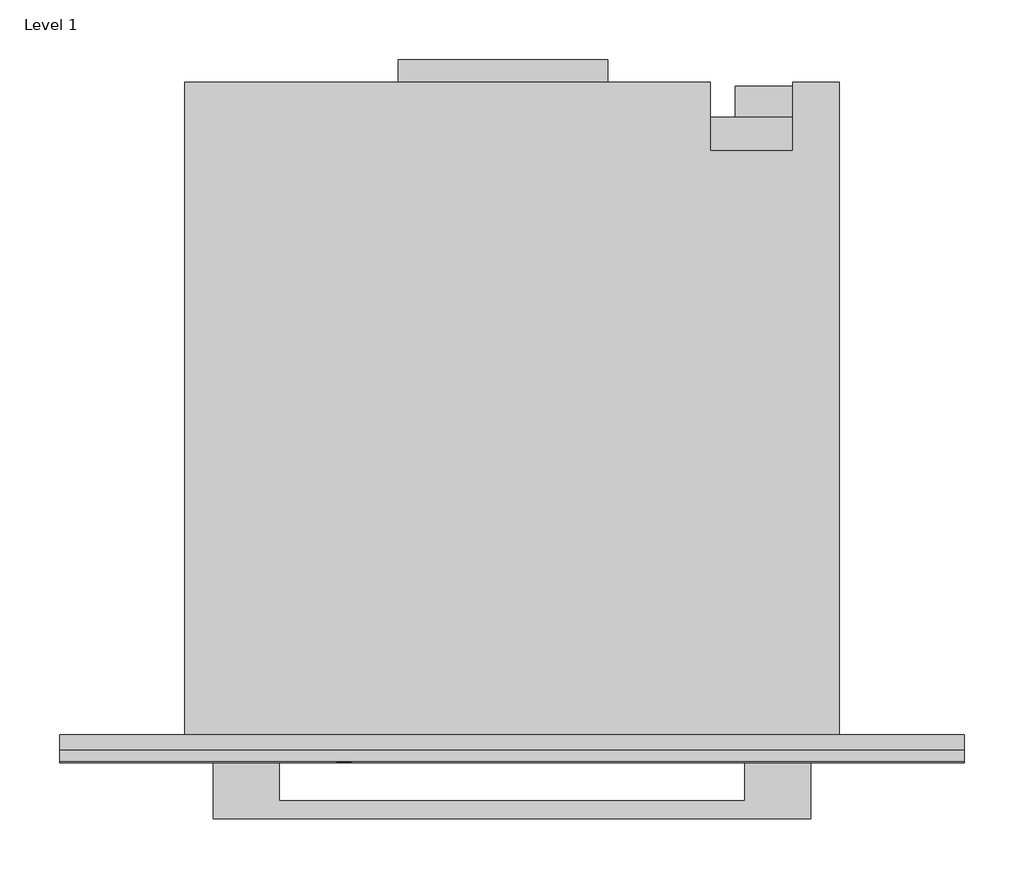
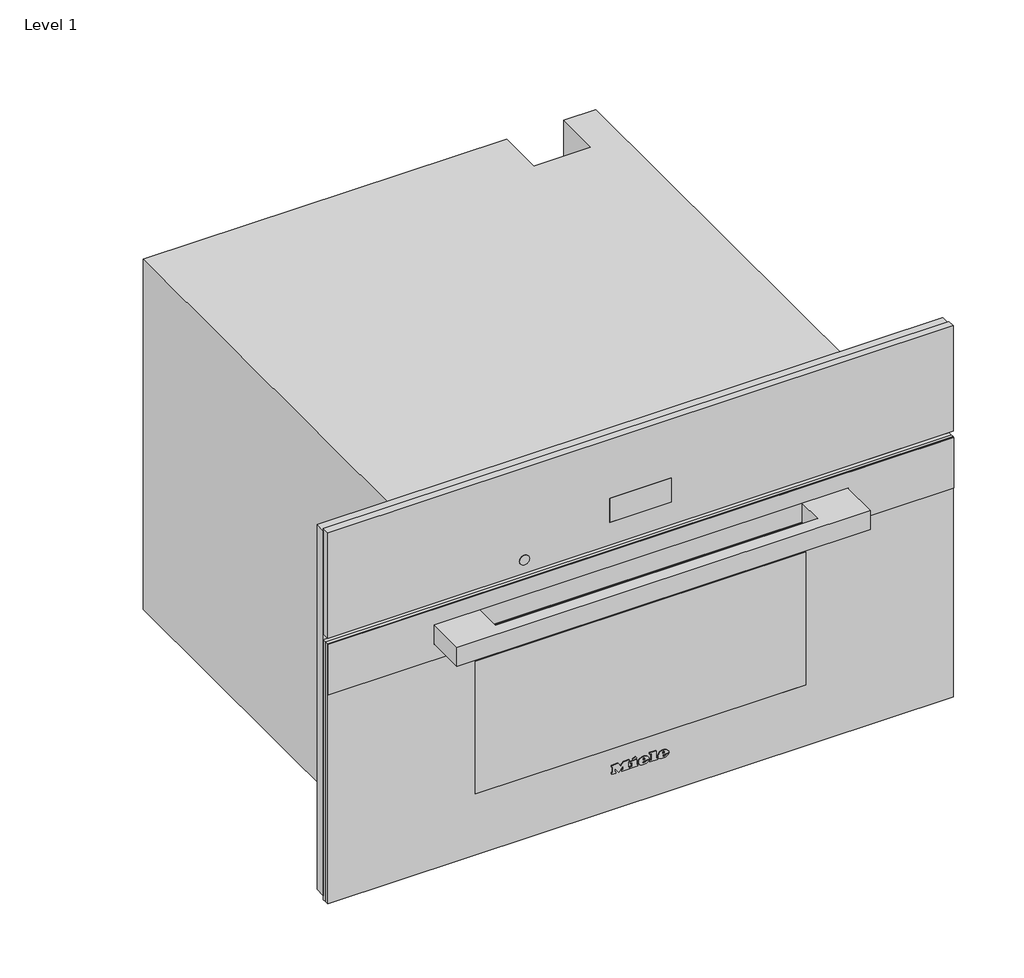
# One storey: 1 proxy.
"""IFC4 building model written with IfcOpenShell, lengths in millimetres."""

import ifcopenshell
import ifcopenshell.guid

model = None  # the IFC model being written
_history = None  # IfcOwnerHistory: only IFC2X3 demands one
_inside = {}  # id of a spatial element -> (the spatial element, [elements in it])
_under = {}  # id of a project, library or spatial element -> (it, [spatial elements below it])
_declared = {}  # id of a project -> (the project, [libraries it declares])
_typed = {}  # id of a type object -> (the type object, [elements of that type])
_made_of = {}  # id of a material, layer set ... -> (it, [elements and type objects made of it])


def new_model(schema):
    """Start an empty IFC model of exactly this schema.

    Asked for "IFC4X3", IfcOpenShell would pick the latest addendum, in which some entities
    have other attributes; the version numbers below select the first issue.
    IFC2X3 requires an IfcOwnerHistory on every rooted entity: one is made here for all.
    """
    global model, _history
    if schema == "IFC4X3":
        model = ifcopenshell.file(schema_version=(4, 3, 0, 0))
    else:
        model = ifcopenshell.file(schema=schema)
    _inside.clear()
    _under.clear()
    _declared.clear()
    _typed.clear()
    _made_of.clear()
    _history = None
    if model.schema == "IFC2X3":
        org = make("IfcOrganization", Name="unknown")
        user = make(
            "IfcPersonAndOrganization",
            ThePerson=make("IfcPerson", FamilyName="unknown"),
            TheOrganization=org,
        )
        app = make(
            "IfcApplication",
            ApplicationDeveloper=org,
            Version="unknown",
            ApplicationFullName="unknown",
            ApplicationIdentifier="unknown",
        )
        _history = make(
            "IfcOwnerHistory",
            OwningUser=user,
            OwningApplication=app,
            ChangeAction="ADDED",
            CreationDate=0,
        )
    return model


def make(cls, **values):
    """One entity of the class cls with the attributes given. An attribute that is None is left unset."""
    return model.create_entity(
        cls, **{name: value for name, value in values.items() if value is not None}
    )


def rooted(cls, **values):
    """An entity with a GlobalId (a new one), such as an element, a storey or a relation."""
    return make(cls, GlobalId=ifcopenshell.guid.new(), OwnerHistory=_history, **values)


def si_unit(unit_type, name, prefix=None):
    """IfcSIUnit, for example si_unit("LENGTHUNIT", "METRE", prefix="MILLI")."""
    return make("IfcSIUnit", UnitType=unit_type, Prefix=prefix, Name=name)


def assignment(units):
    """IfcUnitAssignment: the units of a project."""
    return None if units is None else make("IfcUnitAssignment", Units=units)


def point(xyz):
    """IfcCartesianPoint."""
    return None if xyz is None else make("IfcCartesianPoint", Coordinates=xyz)


def direction(xyz):
    """IfcDirection."""
    return None if xyz is None else make("IfcDirection", DirectionRatios=xyz)


def frame(location, z_axis=None, x_axis=None):
    """IfcAxis2Placement3D, a coordinate frame: its origin and axes. An axis left out is left unset."""
    return make(
        "IfcAxis2Placement3D",
        Location=point(location),
        Axis=direction(z_axis),
        RefDirection=direction(x_axis),
    )


def frame_2d(location, x_axis=None):
    """IfcAxis2Placement2D, a coordinate frame in the plane: its origin and x axis."""
    return make(
        "IfcAxis2Placement2D", Location=point(location), RefDirection=direction(x_axis)
    )


def origin():
    """The frame at (0, 0, 0) with its axes left unset."""
    return frame((0.0, 0.0, 0.0))


def place(relative_to, where):
    """IfcLocalPlacement: puts the frame where relative to a parent placement (None: the world)."""
    return make(
        "IfcLocalPlacement", PlacementRelTo=relative_to, RelativePlacement=where
    )


def context(
    kind, dimensions, precision=None, world=None, true_north=None, identifier=None
):
    """IfcGeometricRepresentationContext, for example the 3D "Model" context."""
    return make(
        "IfcGeometricRepresentationContext",
        ContextIdentifier=identifier,
        ContextType=kind,
        CoordinateSpaceDimension=dimensions,
        Precision=precision,
        WorldCoordinateSystem=world,
        TrueNorth=true_north,
    )


def project(units=None, contexts=None):
    """IfcProject with its units and contexts."""
    return rooted(
        "IfcProject",
        Name="project",
        RepresentationContexts=contexts,
        UnitsInContext=assignment(units),
    )


def spatial(cls, under=None, at=None, **own):
    """A site, building, storey or space (cls), placed at a placement, below another one or the project."""
    s = rooted(cls, ObjectPlacement=at, **own)
    if under is not None:
        _under.setdefault(under.id(), (under, []))[1].append(s)
    return s


def polyline(points):
    """IfcPolyline through the points."""
    return make("IfcPolyline", Points=[point(p) for p in points])


def circle_curve(where, radius):
    """IfcCircle in the frame where."""
    return make("IfcCircle", Position=where, Radius=radius)


def ellipse_curve(where, semi_axis1, semi_axis2):
    """IfcEllipse in the frame where."""
    return make(
        "IfcEllipse", Position=where, SemiAxis1=semi_axis1, SemiAxis2=semi_axis2
    )


def trimmed(basis, trim1, trim2, sense, master):
    """IfcTrimmedCurve: the piece of a basis curve between two trims."""
    return make(
        "IfcTrimmedCurve",
        BasisCurve=basis,
        Trim1=trim1,
        Trim2=trim2,
        SenseAgreement=sense,
        MasterRepresentation=master,
    )


def segment(curve, same_sense, transition):
    """IfcCompositeCurveSegment."""
    return make(
        "IfcCompositeCurveSegment",
        Transition=transition,
        SameSense=same_sense,
        ParentCurve=curve,
    )


def composite_curve(segments, self_intersect=None):
    """IfcCompositeCurve: segments joined end to end."""
    return make("IfcCompositeCurve", Segments=segments, SelfIntersect=self_intersect)


def outline(outer, holes=None, kind="AREA"):
    """IfcArbitraryClosedProfileDef: a profile drawn as a closed curve; with holes, ...WithVoids."""
    if holes is None:
        return make("IfcArbitraryClosedProfileDef", ProfileType=kind, OuterCurve=outer)
    return make(
        "IfcArbitraryProfileDefWithVoids",
        ProfileType=kind,
        OuterCurve=outer,
        InnerCurves=holes,
    )


def extrude(swept, where, along, depth):
    """IfcExtrudedAreaSolid: the profile swept, set in the frame where, extruded along a direction by depth."""
    return make(
        "IfcExtrudedAreaSolid",
        SweptArea=swept,
        Position=where,
        ExtrudedDirection=direction(along),
        Depth=depth,
    )


def faces_of(points, faces, orient=None, outer=None):
    """IfcFace entities. A face is a list of loops; a loop is a list of indices into points, from 0.

    orient and outer hold one flag for each loop. By default every Orientation is true, the
    first loop of a face is its IfcFaceOuterBound and the others are IfcFaceBound.
    """
    made = []
    for i, loops in enumerate(faces):
        bounds = []
        for j, loop in enumerate(loops):
            is_outer = j == 0 if outer is None else outer[i][j]
            bounds.append(
                make(
                    "IfcFaceOuterBound" if is_outer else "IfcFaceBound",
                    Bound=make("IfcPolyLoop", Polygon=[points[k] for k in loop]),
                    Orientation=True if orient is None else orient[i][j],
                )
            )
        made.append(make("IfcFace", Bounds=bounds))
    return made


def faceted_brep(points, faces, orient=None, outer=None, voids=None):
    """IfcFacetedBrep: a solid bounded by flat faces; with voids (closed shells), ...WithVoids."""
    shared = [point(p) for p in points]
    hull = make("IfcClosedShell", CfsFaces=faces_of(shared, faces, orient, outer))
    if voids is None:
        return make("IfcFacetedBrep", Outer=hull)
    return make(
        "IfcFacetedBrepWithVoids",
        Outer=hull,
        Voids=[
            make(cls, CfsFaces=faces_of(shared, fs, o, b)) for cls, fs, o, b in voids
        ],
    )


def shape(context_of_items, identifier, shape_type, items):
    """IfcShapeRepresentation: the items that make up one representation, for example the "Body"."""
    return make(
        "IfcShapeRepresentation",
        ContextOfItems=context_of_items,
        RepresentationIdentifier=identifier,
        RepresentationType=shape_type,
        Items=items,
    )


def source(mapping_origin, context_of_items, identifier, shape_type, items):
    """IfcRepresentationMap: a shape defined once, which mapped items show again and again."""
    return make(
        "IfcRepresentationMap",
        MappingOrigin=mapping_origin,
        MappedRepresentation=shape(context_of_items, identifier, shape_type, items),
    )


def transform(
    local_origin,
    x_axis=None,
    y_axis=None,
    z_axis=None,
    scale=None,
    scale2=None,
    scale3=None,
    uniform=True,
):
    """IfcCartesianTransformationOperator3D, or its non-uniform kind. x_axis, y_axis, z_axis: its Axis1, 2, 3."""
    if uniform:
        return make(
            "IfcCartesianTransformationOperator3D",
            Axis1=direction(x_axis),
            Axis2=direction(y_axis),
            LocalOrigin=point(local_origin),
            Scale=scale,
            Axis3=direction(z_axis),
        )
    return make(
        "IfcCartesianTransformationOperator3DnonUniform",
        Axis1=direction(x_axis),
        Axis2=direction(y_axis),
        LocalOrigin=point(local_origin),
        Scale=scale,
        Axis3=direction(z_axis),
        Scale2=scale2,
        Scale3=scale3,
    )


def mapped(mapping_source, mapping_target):
    """IfcMappedItem: shows the shape of a source again, moved by a transform."""
    return make(
        "IfcMappedItem", MappingSource=mapping_source, MappingTarget=mapping_target
    )


def made_of(thing, what):
    """Note that an element or type object is made of a material, layer set ...; save() writes the relation."""
    if what is not None:
        _made_of.setdefault(what.id(), (what, []))[1].append(thing)
    return thing


def element(
    cls,
    number,
    at=None,
    inside=None,
    cuts=None,
    type_object=None,
    material=None,
    context=None,
    identifier="Body",
    shape_type=None,
    held_by="IfcProductDefinitionShape",
    body=None,
    shapes=None,
    **own,
):
    """One element of the class cls, such as IfcWall. Its Tag is "e" and its number.

    at: its placement. inside: the storey or other place that contains it. cuts: it is an
    opening in that element (IfcRelVoidsElement). A single representation is given by context,
    identifier, shape_type and body (its items); several are given by shapes. held_by: the class
    of the entity that holds the representations. save() writes the other relations.
    """
    e = rooted(cls, Tag="e%d" % number, ObjectPlacement=at, **own)
    if body is not None:
        shapes = [shape(context, identifier, shape_type, body)]
    if shapes is not None:
        e.Representation = make(held_by, Representations=shapes)
    if inside is not None:
        _inside.setdefault(inside.id(), (inside, []))[1].append(e)
    if cuts is not None:
        rooted(
            "IfcRelVoidsElement", RelatingBuildingElement=cuts, RelatedOpeningElement=e
        )
    if type_object is not None:
        _typed.setdefault(type_object.id(), (type_object, []))[1].append(e)
    return made_of(e, material)


def aggregate(whole, parts):
    """IfcRelAggregates: a whole, such as a stair, and the parts it consists of."""
    return rooted("IfcRelAggregates", RelatingObject=whole, RelatedObjects=parts)


def save(model, path):
    """Write the relations noted so far, then the file.

    IfcRelAggregates (storeys below a building ...), IfcRelContainedInSpatialStructure (elements
    in a storey), IfcRelDefinesByType, IfcRelAssociatesMaterial and IfcRelDeclares: one each for
    every whole, place, type object, material and project.
    """
    for whole, parts in _under.values():
        aggregate(whole, parts)
    for where, things in _inside.values():
        rooted(
            "IfcRelContainedInSpatialStructure",
            RelatedElements=things,
            RelatingStructure=where,
        )
    for kind, things in _typed.values():
        rooted("IfcRelDefinesByType", RelatedObjects=things, RelatingType=kind)
    for what, things in _made_of.values():
        rooted("IfcRelAssociatesMaterial", RelatedObjects=things, RelatingMaterial=what)
    for by, libraries in _declared.values():
        rooted("IfcRelDeclares", RelatingContext=by, RelatedDefinitions=libraries)
    model.write(path)


def plane_surface(at):
    """IfcPlane: the flat surface through the origin of the frame at, square to its z axis."""
    return make("IfcPlane", Position=at)


def cylinder_surface(at, radius):
    """IfcCylindricalSurface: all points at the distance radius from the z axis of the frame at."""
    return make("IfcCylindricalSurface", Position=at, Radius=radius)


def revolved_surface(curve, axis_point, axis_direction):
    """IfcSurfaceOfRevolution: the curve turned about the line through axis_point along axis_direction."""
    return make(
        "IfcSurfaceOfRevolution",
        SweptCurve=make("IfcArbitraryOpenProfileDef", ProfileType="CURVE", Curve=curve),
        AxisPosition=make("IfcAxis1Placement", Location=point(axis_point), Axis=direction(axis_direction)),
    )


def extruded_surface(curve, direction_of_extrusion, depth):
    """IfcSurfaceOfLinearExtrusion: the curve pushed along a direction by depth."""
    return make(
        "IfcSurfaceOfLinearExtrusion",
        SweptCurve=make("IfcArbitraryOpenProfileDef", ProfileType="CURVE", Curve=curve),
        ExtrudedDirection=direction(direction_of_extrusion),
        Depth=depth,
    )


def advanced_brep(points, edges, surfaces, faces):
    """IfcAdvancedBrep: a solid bounded by faces that lie on surfaces and meet in shared edges.

    An edge is (start, end): straight between two places in points (the first is 0);
    or (start, end, curve); or (start, end, curve, False) where it runs against its curve.
    A face is (place in surfaces, loops), or (place, loops, False) where it looks against
    its surface's normal. A loop lists edges by number (the first is 1), with a minus sign
    where the edge is run from its end to its start. The first loop is the outer one.
    """
    corners = [point(p) for p in points]
    vertices = [make("IfcVertexPoint", VertexGeometry=c) for c in corners]
    made = []
    for start, end, *more in edges:
        made.append(
            make(
                "IfcEdgeCurve",
                EdgeStart=vertices[start],
                EdgeEnd=vertices[end],
                EdgeGeometry=more[0] if more else make("IfcPolyline", Points=[corners[start], corners[end]]),
                SameSense=more[1] if len(more) > 1 else True,
            )
        )
    hull = []
    for where, loops, *sense in faces:
        bounds = []
        for j, loop in enumerate(loops):
            ring = [make("IfcOrientedEdge", EdgeElement=made[abs(k) - 1], Orientation=k > 0) for k in loop]
            bounds.append(
                make(
                    "IfcFaceOuterBound" if j == 0 else "IfcFaceBound",
                    Bound=make("IfcEdgeLoop", EdgeList=ring),
                    Orientation=True,
                )
            )
        hull.append(make("IfcAdvancedFace", Bounds=bounds, FaceSurface=surfaces[where], SameSense=sense[0] if sense else True))
    return make("IfcAdvancedBrep", Outer=make("IfcClosedShell", CfsFaces=hull))


def specialty_equipment_19ac06d2(model_context):
    return source(origin(), model_context, "Body", "SolidModel", [
        faceted_brep([(378.5, -13.0, 476.0), (-378.5, -13.0, 476.0), (-378.5, -13.0, 9.0), (-272.5, -13.0, 9.0), (-272.5, -13.0, 344.0), (272.5, -13.0, 344.0), (272.5, -13.0, 9.0), (378.5, -13.0, 9.0), (378.5, 0.0, 476.0), (378.5, 0.0, 9.0), (-378.5, 0.0, 9.0), (-378.5, 0.0, 476.0), (231.0, 0.0, 58.0), (231.0, 0.0, 286.0), (-231.0, 0.0, 286.0), (-231.0, 0.0, 58.0), (272.5, -5.0, 9.0), (-272.5, -5.0, 9.0), (-272.5, -5.0, 344.0), (272.5, -5.0, 344.0), (231.0, -5.0, 286.0), (231.0, -5.0, 58.0), (-231.0, -5.0, 58.0), (-231.0, -5.0, 286.0)], [[[0, 1, 2, 3, 4, 5, 6, 7]], [[8, 9, 10, 11], [12, 13, 14, 15]], [[1, 0, 8, 11]], [[2, 1, 11, 10]], [[10, 9, 7, 6, 16, 17, 3, 2]], [[0, 7, 9, 8]], [[18, 19, 5, 4]], [[18, 4, 3, 17]], [[5, 19, 16, 6]], [[19, 18, 17, 16], [20, 21, 22, 23]], [[20, 13, 12, 21]], [[21, 12, 15, 22]], [[22, 15, 14, 23]], [[13, 20, 23, 14]]]),
        extrude(outline(polyline([(-95.0, 565.0), (80.0, 565.0), (80.0, 546.0), (-95.0, 546.0), (-95.0, 565.0)])), frame((0.0, 0.0, 260.0), z_axis=(0.0, 0.0, 1.0), x_axis=(1.0, 0.0, 0.0)), (0.0, 0.0, 1.0), 1.0),
        extrude(outline(polyline([(224.8383288, 537.0), (231.1236409, 537.0), (231.1236409, 526.9492425), (229.8571792, 526.9492425), (229.8571792, 535.7409796), (224.8383288, 535.7409796), (224.8383288, 537.0)])), frame((0.0, 0.0, 132.0), z_axis=(0.0, 0.0, 1.0), x_axis=(1.0, 0.0, 0.0)), (0.0, 0.0, 1.0), 1.0),
        extrude(outline(polyline([(233.0, 537.0), (240.3797826, 537.0), (240.3797826, 526.9503529), (233.15422, 526.9503529), (233.15422, 528.220938), (239.1355215, 528.220938), (239.1355215, 531.1975645), (233.4863097, 531.1975645), (233.4863097, 532.449242), (239.1355215, 532.449242), (239.1355215, 535.7448633), (233.0, 535.7448633), (233.0, 537.0)])), frame((0.0, 0.0, 132.0), z_axis=(0.0, 0.0, 1.0), x_axis=(1.0, 0.0, 0.0)), (0.0, 0.0, 1.0), 1.0),
        extrude(outline(composite_curve([segment(trimmed(circle_curve(frame_2d((233.0, 532.0)), 7.5), [point((225.5, 532.0))], [point((240.5, 532.0))], False, "CARTESIAN"), True, "CONTINUOUS"), segment(trimmed(circle_curve(frame_2d((233.0, 532.0)), 7.5), [point((240.5, 532.0))], [point((225.5, 532.0))], False, "CARTESIAN"), True, "CONTINUOUS")], self_intersect=False)), frame((0.0, 0.0, 133.0), z_axis=(0.0, 0.0, 1.0), x_axis=(1.0, 0.0, 0.0)), (0.0, 0.0, 1.0), 30.0),
        extrude(outline(polyline([(266.0, 517.0), (187.0, 517.0), (187.0, 543.0), (266.0, 543.0), (266.0, 517.0)])), frame((0.0, 0.0, 163.0), z_axis=(0.0, 0.0, 1.0), x_axis=(1.0, 0.0, 0.0)), (0.0, 0.0, 1.0), 111.0),
        faceted_brep([(-274.0, 546.0, 0.0), (-274.0, 546.0, 448.0), (166.0, 546.0, 448.0), (166.0, 546.0, 0.0), (235.0, 546.0, 448.0), (274.0, 546.0, 448.0), (274.0, 546.0, 338.0), (235.0, 546.0, 338.0), (274.0, 0.0, 448.0), (-274.0, 0.0, 448.0), (-274.0, 0.0, 0.0), (274.0, 0.0, 0.0), (231.0, 0.0, 286.0), (231.0, 0.0, 58.0), (-231.0, 0.0, 58.0), (-231.0, 0.0, 286.0), (235.0, 489.0, 448.0), (166.0, 489.0, 448.0), (166.0, 517.0, 0.0), (274.0, 517.0, 0.0), (274.0, 517.0, 338.0), (231.0, 411.0, 286.0), (-231.0, 411.0, 286.0), (-231.0, 411.0, 58.0), (231.0, 411.0, 58.0), (235.0, 489.0, 337.0), (166.0, 489.0, 337.0), (166.0, 517.0, 337.0), (235.0, 517.0, 337.0), (235.0, 517.0, 338.0)], [[[0, 1, 2, 3]], [[4, 5, 6, 7]], [[8, 9, 10, 11], [12, 13, 14, 15]], [[9, 8, 5, 4, 16, 17, 2, 1]], [[1, 0, 10, 9]], [[11, 10, 0, 3, 18, 19]], [[8, 11, 19, 20, 6, 5]], [[21, 22, 23, 24]], [[21, 24, 13, 12]], [[24, 23, 14, 13]], [[23, 22, 15, 14]], [[22, 21, 12, 15]], [[16, 25, 26, 17]], [[17, 26, 27, 18, 3, 2]], [[26, 25, 28, 27]], [[25, 16, 4, 7, 29, 28]], [[29, 20, 19, 18, 27, 28]], [[20, 29, 7, 6]]]),
        advanced_brep(
        [(26.2998, -23.0, 52.7018), (26.2998, -23.0, 53.8532), (33.9264, -23.0, 53.8532), (20.6568, -23.0, 53.8532), (23.7918, -23.0, 50.0), (33.7326, -23.0, 52.7018), (30.2898, -23.0, 52.7018), (27.5766, -23.0, 51.425), (26.2998, -23.0, 55.3124), (26.2998, -23.0, 56.555), (28.2492, -23.0, 56.555), (28.2492, -23.0, 55.3124), (26.2998, -22.0, 52.7018), (27.5766, -22.0, 51.425), (30.2898, -22.0, 52.7018), (33.7326, -22.0, 52.7018), (23.7918, -22.0, 50.0), (20.6568, -22.0, 53.8532), (33.9264, -22.0, 53.8532), (26.2998, -22.0, 53.8532), (26.2998, -22.0, 55.3124), (28.2492, -22.0, 55.3124), (28.2492, -22.0, 56.555), (26.2998, -22.0, 56.555)],
        [
            (0, 1),
            (1, 2),
            (2, 3, ellipse_curve(frame((27.2916, -23.0, 53.8532), z_axis=(0.0, -1.0, 0.0), x_axis=(-1.0, 0.0, 0.0)), 6.6348, 5.4834)),
            (3, 4, circle_curve(frame((25.0686622, -23.0, 54.2408), z_axis=(0.0, -1.0, 0.0), x_axis=(0.0, 0.0, -1.0)), 4.4288556)),
            (4, 5, circle_curve(frame((27.1587808, -23.0, 57.2504), z_axis=(0.0, -1.0, 0.0), x_axis=(0.0, 0.0, -1.0)), 7.9940516)),
            (5, 6),
            (6, 7, circle_curve(frame((28.1338588, -23.0, 53.762), z_axis=(0.0, 1.0, 0.0), x_axis=(0.0, 0.0, -1.0)), 2.4025208)),
            (7, 0, circle_curve(frame((27.5766, -23.0, 52.7018), z_axis=(0.0, 1.0, 0.0), x_axis=(0.0, 0.0, -1.0)), 1.2768)),
            (8, 9),
            (9, 10, circle_curve(frame((27.2745, -23.0, 56.555), z_axis=(0.0, 1.0, 0.0), x_axis=(0.0, 0.0, -1.0)), 0.9747)),
            (10, 11),
            (11, 8),
            (12, 13, circle_curve(frame((27.5766, -22.0, 52.7018), z_axis=(0.0, -1.0, 0.0), x_axis=(0.0, 0.0, -1.0)), 1.2768)),
            (13, 14, circle_curve(frame((28.1338588, -22.0, 53.762), z_axis=(0.0, -1.0, 0.0), x_axis=(0.0, 0.0, -1.0)), 2.4025208)),
            (14, 15),
            (15, 16, circle_curve(frame((27.1587808, -22.0, 57.2504), z_axis=(0.0, 1.0, 0.0), x_axis=(0.0, 0.0, -1.0)), 7.9940516)),
            (16, 17, circle_curve(frame((25.0686622, -22.0, 54.2408), z_axis=(0.0, 1.0, 0.0), x_axis=(0.0, 0.0, -1.0)), 4.4288556)),
            (17, 18, ellipse_curve(frame((27.2916, -22.0, 53.8532), z_axis=(0.0, 1.0, 0.0), x_axis=(-1.0, 0.0, 0.0)), 6.6348, 5.4834)),
            (18, 19),
            (19, 12),
            (20, 21),
            (21, 22),
            (22, 23, circle_curve(frame((27.2745, -22.0, 56.555), z_axis=(0.0, -1.0, 0.0), x_axis=(0.0, 0.0, -1.0)), 0.9747)),
            (23, 20),
            (0, 12),
            (19, 1),
            (18, 2),
            (5, 15),
            (14, 6),
            (17, 3),
            (13, 7),
            (16, 4),
            (8, 20),
            (23, 9),
            (22, 10),
            (21, 11),
        ],
        [
            plane_surface(frame((26.2998, -23.0, 53.8532), z_axis=(0.0, -1.0, 0.0), x_axis=(0.0, 0.0, 1.0))),
            plane_surface(frame((26.2998, -22.0, 53.8532), z_axis=(0.0, 1.0, 0.0), x_axis=(0.0, 0.0, -1.0))),
            plane_surface(frame((26.2998, -23.0, 52.7018), z_axis=(1.0, 0.0, 0.0), x_axis=(0.0, 1.0, 0.0))),
            plane_surface(frame((26.2998, -23.0, 53.8532), z_axis=(0.0, 0.0, -1.0), x_axis=(0.0, 1.0, 0.0))),
            plane_surface(frame((33.7326, -23.0, 52.7018), z_axis=(0.0, 0.0, 1.0), x_axis=(0.0, 1.0, 0.0))),
            extruded_surface(trimmed(ellipse_curve(frame((27.2916, -21.0, 53.8532), z_axis=(0.0, -1.0, 0.0), x_axis=(-1.0, 0.0, 0.0)), 6.6348, 5.4834), [point((33.9264, -21.0, 53.8532))], [point((20.6568, -21.0, 53.8532))], True, "CARTESIAN"), (0.0, -1.0, 0.0), 1.0),
            revolved_surface(polyline([(28.1338588, -22.0, 51.3594792), (28.1338588, -23.0, 51.3594792)]), (28.1338588, -22.0, 53.762), (0.0, 1.0, 0.0)),
            revolved_surface(polyline([(27.5766, -22.0, 51.425), (27.5766, -23.0, 51.425)]), (27.5766, -22.0, 52.7018), (0.0, 1.0, 0.0)),
            cylinder_surface(frame((25.0686622, -22.0, 54.2408), z_axis=(0.0, -1.0, 0.0), x_axis=(0.0, 0.0, -1.0)), 4.4288556),
            cylinder_surface(frame((27.1587808, -22.0, 57.2504), z_axis=(0.0, -1.0, 0.0), x_axis=(0.0, 0.0, -1.0)), 7.9940516),
            plane_surface(frame((26.2998, -23.0, 55.3124), z_axis=(1.0, 0.0, 0.0), x_axis=(0.0, 1.0, 0.0))),
            revolved_surface(polyline([(27.2745, -22.0, 55.5803), (27.2745, -23.0, 55.5803)]), (27.2745, -22.0, 56.555), (0.0, 1.0, 0.0)),
            plane_surface(frame((28.2492, -23.0, 56.555), z_axis=(-1.0, 0.0, 0.0), x_axis=(0.0, 1.0, 0.0))),
            plane_surface(frame((28.2492, -23.0, 55.3124), z_axis=(0.0, 0.0, 1.0), x_axis=(0.0, 1.0, 0.0))),
        ],
        [
            (0, [[1, 2, 3, 4, 5, 6, 7, 8], [9, 10, 11, 12]]),
            (1, [[13, 14, 15, 16, 17, 18, 19, 20], [21, 22, 23, 24]]),
            (2, [[-1, 25, -20, 26]]),
            (3, [[-2, -26, -19, 27]]),
            (4, [[-6, 28, -15, 29]]),
            (5, [[-3, -27, -18, 30]]),
            (6, [[-7, -29, -14, 31]]),
            (7, [[-8, -31, -13, -25]]),
            (8, [[-4, -30, -17, 32]]),
            (9, [[-5, -32, -16, -28]]),
            (10, [[-9, 33, -24, 34]]),
            (11, [[-10, -34, -23, 35]]),
            (12, [[-11, -35, -22, 36]]),
            (13, [[-12, -36, -21, -33]]),
        ],
    ),
        advanced_brep(
        [(2.508, -23.0, 52.7018), (2.508, -23.0, 53.8532), (10.1346, -23.0, 53.8532), (-3.135, -23.0, 53.8532), (0.0, -23.0, 50.0), (9.9408, -23.0, 52.7018), (6.498, -23.0, 52.7018), (3.7848, -23.0, 51.425), (2.508, -23.0, 55.3124), (2.508, -23.0, 56.555), (4.4574, -23.0, 56.555), (4.4574, -23.0, 55.3124), (2.508, -22.0, 52.7018), (3.7848, -22.0, 51.425), (6.498, -22.0, 52.7018), (9.9408, -22.0, 52.7018), (0.0, -22.0, 50.0), (-3.135, -22.0, 53.8532), (10.1346, -22.0, 53.8532), (2.508, -22.0, 53.8532), (2.508, -22.0, 55.3124), (4.4574, -22.0, 55.3124), (4.4574, -22.0, 56.555), (2.508, -22.0, 56.555)],
        [
            (0, 1),
            (1, 2),
            (2, 3, ellipse_curve(frame((3.4998, -23.0, 53.8532), z_axis=(0.0, -1.0, 0.0), x_axis=(-1.0, 0.0, 0.0)), 6.6348, 5.4834)),
            (3, 4, circle_curve(frame((1.2768622, -23.0, 54.2408), z_axis=(0.0, -1.0, 0.0), x_axis=(0.0, 0.0, -1.0)), 4.4288556)),
            (4, 5, circle_curve(frame((3.3669808, -23.0, 57.2504), z_axis=(0.0, -1.0, 0.0), x_axis=(0.0, 0.0, -1.0)), 7.9940516)),
            (5, 6),
            (6, 7, circle_curve(frame((4.3420588, -23.0, 53.762), z_axis=(0.0, 1.0, 0.0), x_axis=(0.0, 0.0, -1.0)), 2.4025208)),
            (7, 0, circle_curve(frame((3.7848, -23.0, 52.7018), z_axis=(0.0, 1.0, 0.0), x_axis=(0.0, 0.0, -1.0)), 1.2768)),
            (8, 9),
            (9, 10, circle_curve(frame((3.4827, -23.0, 56.555), z_axis=(0.0, 1.0, 0.0), x_axis=(0.0, 0.0, -1.0)), 0.9747)),
            (10, 11),
            (11, 8),
            (12, 13, circle_curve(frame((3.7848, -22.0, 52.7018), z_axis=(0.0, -1.0, 0.0), x_axis=(0.0, 0.0, -1.0)), 1.2768)),
            (13, 14, circle_curve(frame((4.3420588, -22.0, 53.762), z_axis=(0.0, -1.0, 0.0), x_axis=(0.0, 0.0, -1.0)), 2.4025208)),
            (14, 15),
            (15, 16, circle_curve(frame((3.3669808, -22.0, 57.2504), z_axis=(0.0, 1.0, 0.0), x_axis=(0.0, 0.0, -1.0)), 7.9940516)),
            (16, 17, circle_curve(frame((1.2768622, -22.0, 54.2408), z_axis=(0.0, 1.0, 0.0), x_axis=(0.0, 0.0, -1.0)), 4.4288556)),
            (17, 18, ellipse_curve(frame((3.4998, -22.0, 53.8532), z_axis=(0.0, 1.0, 0.0), x_axis=(-1.0, 0.0, 0.0)), 6.6348, 5.4834)),
            (18, 19),
            (19, 12),
            (20, 21),
            (21, 22),
            (22, 23, circle_curve(frame((3.4827, -22.0, 56.555), z_axis=(0.0, -1.0, 0.0), x_axis=(0.0, 0.0, -1.0)), 0.9747)),
            (23, 20),
            (0, 12),
            (19, 1),
            (18, 2),
            (5, 15),
            (14, 6),
            (17, 3),
            (13, 7),
            (16, 4),
            (8, 20),
            (23, 9),
            (22, 10),
            (21, 11),
        ],
        [
            plane_surface(frame((2.508, -23.0, 53.8532), z_axis=(0.0, -1.0, 0.0), x_axis=(0.0, 0.0, 1.0))),
            plane_surface(frame((2.508, -22.0, 53.8532), z_axis=(0.0, 1.0, 0.0), x_axis=(0.0, 0.0, -1.0))),
            plane_surface(frame((2.508, -23.0, 52.7018), z_axis=(1.0, 0.0, 0.0), x_axis=(0.0, 1.0, 0.0))),
            plane_surface(frame((2.508, -23.0, 53.8532), z_axis=(0.0, 0.0, -1.0), x_axis=(0.0, 1.0, 0.0))),
            plane_surface(frame((9.9408, -23.0, 52.7018), z_axis=(0.0, 0.0, 1.0), x_axis=(0.0, 1.0, 0.0))),
            extruded_surface(trimmed(ellipse_curve(frame((3.4998, -21.0, 53.8532), z_axis=(0.0, -1.0, 0.0), x_axis=(-1.0, 0.0, 0.0)), 6.6348, 5.4834), [point((10.1346, -21.0, 53.8532))], [point((-3.135, -21.0, 53.8532))], True, "CARTESIAN"), (0.0, -1.0, 0.0), 1.0),
            revolved_surface(polyline([(4.3420588, -22.0, 51.3594792), (4.3420588, -23.0, 51.3594792)]), (4.3420588, -22.0, 53.762), (0.0, 1.0, 0.0)),
            revolved_surface(polyline([(3.7848, -22.0, 51.425), (3.7848, -23.0, 51.425)]), (3.7848, -22.0, 52.7018), (0.0, 1.0, 0.0)),
            cylinder_surface(frame((1.2768622, -22.0, 54.2408), z_axis=(0.0, -1.0, 0.0), x_axis=(0.0, 0.0, -1.0)), 4.4288556),
            cylinder_surface(frame((3.3669808, -22.0, 57.2504), z_axis=(0.0, -1.0, 0.0), x_axis=(0.0, 0.0, -1.0)), 7.9940516),
            plane_surface(frame((2.508, -23.0, 55.3124), z_axis=(1.0, 0.0, 0.0), x_axis=(0.0, 1.0, 0.0))),
            revolved_surface(polyline([(3.4827, -22.0, 55.5803), (3.4827, -23.0, 55.5803)]), (3.4827, -22.0, 56.555), (0.0, 1.0, 0.0)),
            plane_surface(frame((4.4574, -23.0, 56.555), z_axis=(-1.0, 0.0, 0.0), x_axis=(0.0, 1.0, 0.0))),
            plane_surface(frame((4.4574, -23.0, 55.3124), z_axis=(0.0, 0.0, 1.0), x_axis=(0.0, 1.0, 0.0))),
        ],
        [
            (0, [[1, 2, 3, 4, 5, 6, 7, 8], [9, 10, 11, 12]]),
            (1, [[13, 14, 15, 16, 17, 18, 19, 20], [21, 22, 23, 24]]),
            (2, [[-1, 25, -20, 26]]),
            (3, [[-2, -26, -19, 27]]),
            (4, [[-6, 28, -15, 29]]),
            (5, [[-3, -27, -18, 30]]),
            (6, [[-7, -29, -14, 31]]),
            (7, [[-8, -31, -13, -25]]),
            (8, [[-4, -30, -17, 32]]),
            (9, [[-5, -32, -16, -28]]),
            (10, [[-9, 33, -24, 34]]),
            (11, [[-10, -34, -23, 35]]),
            (12, [[-11, -35, -22, 36]]),
            (13, [[-12, -36, -21, -33]]),
        ],
    ),
        extrude(outline(polyline([(60.7274, -9.9522), (58.8806, -9.0858), (60.6818, -5.2212), (62.5286, -6.0762), (60.7274, -9.9522)])), frame((0.0, -23.0, 0.0), z_axis=(0.0, 1.0, 0.0), x_axis=(0.0, 0.0, 1.0)), (0.0, 0.0, 1.0), 1.0),
        extrude(outline(polyline([(58.6298, -12.768), (56.5892, -12.768), (56.5892, -11.4114), (51.9152, -11.4114), (51.9152, -12.768), (50.0, -12.768), (50.0, -3.7734), (51.9152, -3.7734), (51.9152, -5.0958), (58.6298, -5.0958), (58.6298, -12.768)])), frame((0.0, -23.0, 0.0), z_axis=(0.0, 1.0, 0.0), x_axis=(0.0, 0.0, 1.0)), (0.0, 0.0, 1.0), 1.0),
        extrude(outline(polyline([(59.5418, 10.773), (59.5418, 12.141), (51.9152, 12.141), (51.9152, 10.773), (50.0, 10.773), (50.0, 20.0184), (51.9152, 20.0184), (51.9152, 18.6162), (61.4, 18.6162), (61.4, 10.773), (59.5418, 10.773)])), frame((0.0, -23.0, 0.0), z_axis=(0.0, 1.0, 0.0), x_axis=(0.0, 0.0, 1.0)), (0.0, 0.0, 1.0), 1.0),
        extrude(outline(polyline([(59.5418, -35.4882), (59.5418, -34.1088), (51.9152, -34.1088), (51.9152, -35.4882), (50.0, -35.4882), (50.0, -30.4722), (51.9152, -30.4722), (51.9152, -31.8402), (56.7429247, -31.8402), (50.0, -26.7444), (56.9402223, -21.6258), (51.9152, -21.6258), (51.9152, -23.028), (50.0, -23.028), (50.0, -13.9308), (51.9152, -13.9308), (51.9152, -15.3786), (59.5418, -15.3786), (59.5418, -13.9308), (61.4, -13.9308), (61.4, -20.8734), (57.125, -24.2022), (61.4, -27.5424), (61.4, -35.4882), (59.5418, -35.4882)])), frame((0.0, -23.0, 0.0), z_axis=(0.0, 1.0, 0.0), x_axis=(0.0, 0.0, 1.0)), (0.0, 0.0, 1.0), 1.0),
        extrude(outline(composite_curve([segment(trimmed(circle_curve(frame_2d((361.0, -140.5745637)), 6.0), [point((361.0, -146.5745637))], [point((361.0, -134.5745637))], False, "CARTESIAN"), True, "CONTINUOUS"), segment(trimmed(circle_curve(frame_2d((361.0, -140.5745637)), 6.0), [point((361.0, -134.5745637))], [point((361.0, -146.5745637))], False, "CARTESIAN"), True, "CONTINUOUS")], self_intersect=False)), frame((0.0, -22.5, 0.0), z_axis=(0.0, 1.0, 0.0), x_axis=(0.0, 0.0, 1.0)), (0.0, 0.0, 1.0), 1.0),
        extrude(outline(polyline([(-37.5, -21.0), (37.5, -21.0), (37.5, -22.0), (-37.5, -22.0), (-37.5, -21.0)])), frame((0.0, 0.0, 373.0), z_axis=(0.0, 0.0, 1.0), x_axis=(1.0, 0.0, 0.0)), (0.0, 0.0, 1.0), 30.5),
        faceted_brep([(378.5, -22.0, 479.0), (-378.5, -22.0, 479.0), (-378.5, -22.0, 344.0), (378.5, -22.0, 344.0), (37.5, -22.0, 403.5), (37.5, -22.0, 373.0), (-37.5, -22.0, 373.0), (-37.5, -22.0, 403.5), (378.5, -13.0, 479.0), (378.5, -13.0, 344.0), (-378.5, -13.0, 344.0), (-378.5, -13.0, 479.0), (37.5, -21.0, 403.5), (-37.5, -21.0, 403.5), (-37.5, -21.0, 373.0), (37.5, -21.0, 373.0)], [[[0, 1, 2, 3], [4, 5, 6, 7]], [[8, 9, 10, 11]], [[1, 0, 8, 11]], [[2, 1, 11, 10]], [[3, 2, 10, 9]], [[0, 3, 9, 8]], [[12, 13, 14, 15]], [[12, 15, 5, 4]], [[15, 14, 6, 5]], [[14, 13, 7, 6]], [[13, 12, 4, 7]]]),
        extrude(outline(polyline([(200.0, -22.0), (-200.0, -22.0), (-200.0, -18.0), (200.0, -18.0), (200.0, -22.0)])), frame((0.0, 0.0, 82.0), z_axis=(0.0, 0.0, 1.0), x_axis=(1.0, 0.0, 0.0)), (0.0, 0.0, 1.0), 170.0),
        extrude(outline(polyline([(337.0, 378.5), (337.0, -378.5), (4.0, -378.5), (4.0, 378.5), (337.0, 378.5)]), holes=[polyline([(252.0, -200.0), (252.0, 200.0), (82.0, 200.0), (82.0, -200.0), (252.0, -200.0)])]), frame((0.0, -22.0, 0.0), z_axis=(0.0, 1.0, 0.0), x_axis=(0.0, 0.0, 1.0)), (0.0, 0.0, 1.0), 4.0),
        extrude(outline(polyline([(337.0, 378.5), (337.0, -378.5), (272.0, -378.5), (272.0, 378.5), (337.0, 378.5)]), holes=[polyline([(317.0, -250.5), (317.0, 250.5), (292.0, 250.5), (292.0, -250.5), (317.0, -250.5)])]), frame((0.0, -23.3, 0.0), z_axis=(0.0, 1.0, 0.0), x_axis=(0.0, 0.0, 1.0)), (0.0, 0.0, 1.0), 1.3),
        extrude(outline(polyline([(-250.0, -70.3), (-250.0, -22.0), (-195.0, -22.0), (-195.0, -55.3), (195.0, -55.3), (195.0, -22.0), (250.0, -22.0), (250.0, -70.3), (-250.0, -70.3)])), frame((0.0, 0.0, 292.5), z_axis=(0.0, 0.0, 1.0), x_axis=(1.0, 0.0, 0.0)), (0.0, 0.0, 1.0), 24.0),
        extrude(outline(polyline([(378.5, -18.0), (-378.5, -18.0), (-378.5, -13.0), (378.5, -13.0), (378.5, -18.0)])), frame((0.0, 0.0, 4.0), z_axis=(0.0, 0.0, 1.0), x_axis=(1.0, 0.0, 0.0)), (0.0, 0.0, 1.0), 333.0),
    ])


model = new_model("IFC4")

# Units and contexts
model_context = context("Model", 3, world=origin())
ifc_project = project(units=[si_unit("LENGTHUNIT", "METRE", prefix="MILLI")], contexts=[model_context])

# Site, building, storey
site = spatial("IfcSite", under=ifc_project)
building = spatial("IfcBuilding", under=site)
storey = spatial("IfcBuildingStorey", under=building, Name="Level 1", Elevation=0.0)

# Proxy
placement = place(None, origin())
specialty_equipment_shape = specialty_equipment_19ac06d2(model_context)
element("IfcBuildingElementProxy", 1, Name="11876230_USA_DGC7470_EDST-CLST : 23747042_USA_11876230_DGC7470_EDST-CLST", ObjectType="11876230_USA_DGC7470_EDST-CLST : 23747042_USA_11876230_DGC7470_EDST-CLST", at=placement, inside=storey, context=model_context, shape_type="MappedRepresentation", body=[
    mapped(specialty_equipment_shape, transform((0.0, 0.0, 0.0), x_axis=(1.0, 0.0, 0.0), y_axis=(0.0, 1.0, 0.0), z_axis=(0.0, 0.0, 1.0))),
])

save(model, "model.ifc")
